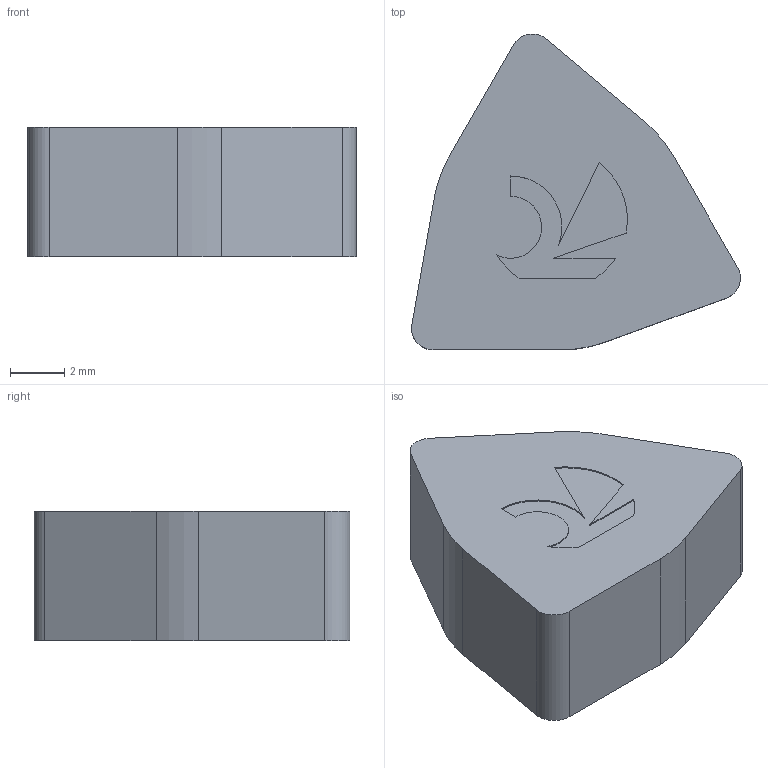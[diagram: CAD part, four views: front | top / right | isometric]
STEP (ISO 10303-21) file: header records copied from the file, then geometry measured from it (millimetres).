
FILE_DESCRIPTION(('no description'),'unknown implementation level');
FILE_NAME('solidVnl2eVsd2061LP3URVPR5iotnDk_1.STP',' ',('CIMSOURCE GmbH'),('CADClick - KiM GmbH - www.kimweb.de'),'unknown preprocess','ACIS','unknown authorization');
FILE_SCHEMA(('automotive_design'));
Length unit declared in the file: millimetre
Products named in the file (1): CUT
Bounding box: 12.12 x 11.64 x 4.76 mm (x, y, z)
Volume: 439.5 mm3; surface area: 364.6 mm2
Topology: 1 solids, 1 shells, 26 faces, 69 edges, 46 vertices
Faces by surface type: plane 14, cylinder 12
Entity records: 1634 total; most frequent: DIRECTION 151, CARTESIAN_POINT 144, STYLED_ITEM 142, PRESENTATION_STYLE_ASSIGNMENT 142, COLOUR_RGB 142, ORIENTED_EDGE 138, EDGE_CURVE 69, CURVE_STYLE 69
